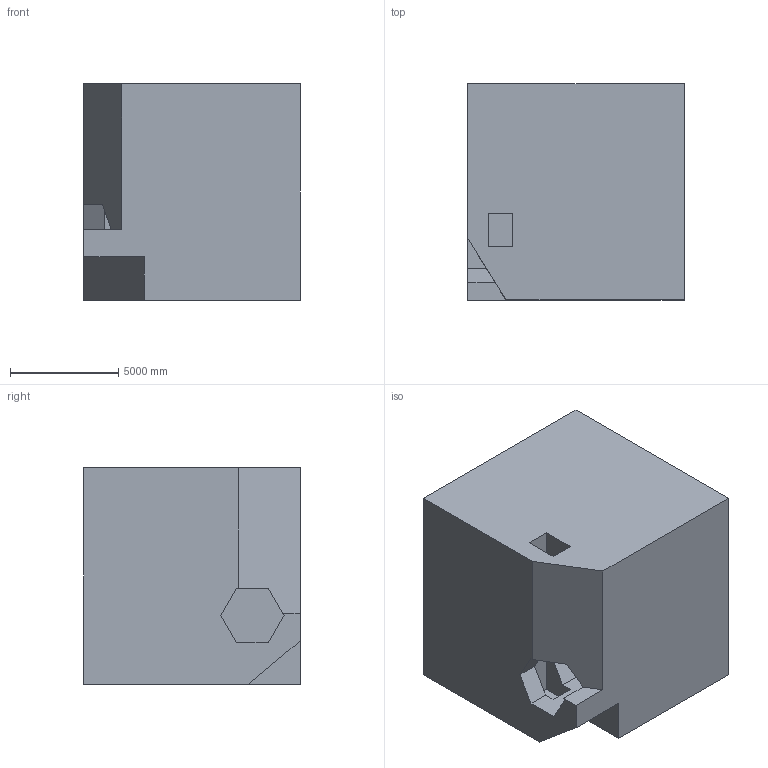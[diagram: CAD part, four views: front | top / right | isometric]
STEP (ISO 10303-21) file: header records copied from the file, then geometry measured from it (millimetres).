
FILE_DESCRIPTION (( 'STEP AP203' ), '1' );
FILE_NAME ('547.STEP', '2022-07-29T11:45:40', ( 'user' ), ( '' ), 'SwSTEP 2.0', 'SolidWorks 2021', '' );
FILE_SCHEMA (( 'CONFIG_CONTROL_DESIGN' ));
Length unit declared in the file: centimetre
Products named in the file (1): 547
Bounding box: 10000 x 10000 x 10000 mm (x, y, z)
Volume: 901848688049.6 mm3; surface area: 730969406.9 mm2
Topology: 1 solids, 1 shells, 34 faces, 96 edges, 64 vertices
Faces by surface type: plane 33, cylinder 1
Entity records: 1163 total; most frequent: CARTESIAN_POINT 195, ORIENTED_EDGE 192, DIRECTION 168, EDGE_CURVE 96, LINE 94, VECTOR 94, VERTEX_POINT 64, AXIS2_PLACEMENT_3D 37
